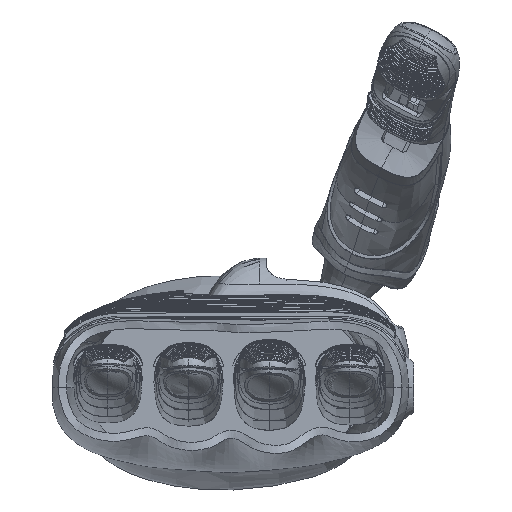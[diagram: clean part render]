
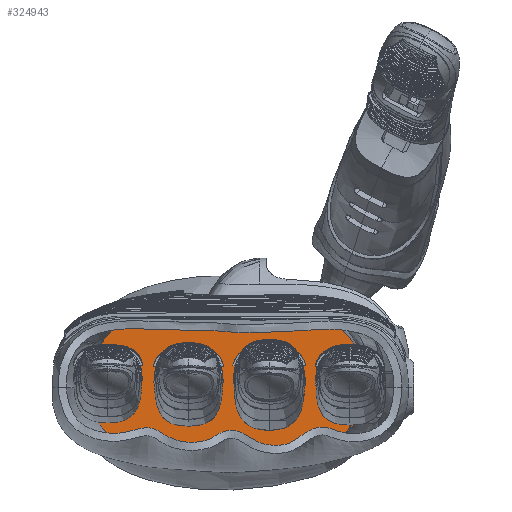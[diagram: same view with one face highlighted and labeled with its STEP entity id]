
A CAD part, top view. The second image highlights one B-rep face of the part: STEP entity #324943.
In plain terms, the highlighted planar face has unit normal (0, 0, 1).
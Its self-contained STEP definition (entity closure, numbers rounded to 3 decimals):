
#21233 = CARTESIAN_POINT ( 'NONE',  ( 119.522, -0.885, -95.865 ) ) ;
#22603 = CARTESIAN_POINT ( 'NONE',  ( 120.343, 21.527, -95.865 ) ) ;
#24540 = CARTESIAN_POINT ( 'NONE',  ( 51.74, 14.008, -95.865 ) ) ;
#25094 = CARTESIAN_POINT ( 'NONE',  ( 64.38, -7.722, -95.865 ) ) ;
#26451 = CARTESIAN_POINT ( 'NONE',  ( 57.616, 26.051, -95.865 ) ) ;
#28389 = CARTESIAN_POINT ( 'NONE',  ( 121.937, 16.673, -95.865 ) ) ;
#30642 = CARTESIAN_POINT ( 'NONE',  ( 122.381, 10., -95.865 ) ) ;
#34849 = ORIENTED_EDGE ( 'NONE', *, *, #41122, .F. ) ;
#41122 = EDGE_CURVE ( 'NONE', #321641, #219308, #355965, .T. ) ;
#48115 = AXIS2_PLACEMENT_3D ( 'NONE', #123396, #266360, #94036 ) ;
#54438 = CARTESIAN_POINT ( 'NONE',  ( 111.307, -7.329, -95.865 ) ) ;
#56371 = CARTESIAN_POINT ( 'NONE',  ( 72.557, -9.716, -95.865 ) ) ;
#57751 = CARTESIAN_POINT ( 'NONE',  ( 115.767, 26.661, -95.865 ) ) ;
#78039 = CARTESIAN_POINT ( 'NONE',  ( 51.651, 7.006, -95.865 ) ) ;
#81908 = CARTESIAN_POINT ( 'NONE',  ( 108.026, -8.442, -95.865 ) ) ;
#83842 = CARTESIAN_POINT ( 'NONE',  ( 120.724, 1.271, -95.865 ) ) ;
#86002 = EDGE_LOOP ( 'NONE', ( #215374, #34849 ) ) ;
#87149 = CARTESIAN_POINT ( 'NONE',  ( 62.801, 29.268, -95.865 ) ) ;
#89064 = CARTESIAN_POINT ( 'NONE',  ( 59.922, 27.741, -95.865 ) ) ;
#94036 = DIRECTION ( 'NONE',  ( -1., 0., 0. ) ) ;
#100520 = B_SPLINE_CURVE_WITH_KNOTS ( 'NONE', 3,
 ( #296636, #292788, #24540, #351622, #355464, #110836, #177295, #26451, #89064, #87149, #384940, #118483, #288928, #234003, #324066, #349695, #294707, #114670, #381098, #237840, #265315, #57751, #142070, #140123, #22603, #326017, #28389, #267225, #147834, #261486 ),
 .UNSPECIFIED., .F., .F.,
 ( 4, 1, 1, 1, 1, 1, 1, 1, 1, 1, 1, 1, 1, 1, 1, 1, 1, 1, 1, 1, 1, 1, 1, 1, 1, 1, 1, 4 ),
 ( 0., 0.037, 0.074, 0.111, 0.148, 0.185, 0.222, 0.259, 0.296, 0.333, 0.37, 0.407, 0.444, 0.481, 0.519, 0.556, 0.593, 0.63, 0.667, 0.704, 0.741, 0.778, 0.815, 0.852, 0.889, 0.926, 0.963, 1. ),
 .UNSPECIFIED. ) ;
#107522 = CARTESIAN_POINT ( 'NONE',  ( 104.234, -9.344, -95.865 ) ) ;
#110836 = CARTESIAN_POINT ( 'NONE',  ( 54.505, 22.431, -95.865 ) ) ;
#111403 = CARTESIAN_POINT ( 'NONE',  ( 54.737, -1.471, -95.865 ) ) ;
#113313 = CARTESIAN_POINT ( 'NONE',  ( 122.232, 6.538, -95.865 ) ) ;
#114670 = CARTESIAN_POINT ( 'NONE',  ( 102.733, 31.419, -95.865 ) ) ;
#118483 = CARTESIAN_POINT ( 'NONE',  ( 70.381, 31.61, -95.865 ) ) ;
#123396 = CARTESIAN_POINT ( 'NONE',  ( 86.981, 11.001, -95.865 ) ) ;
#136862 = CARTESIAN_POINT ( 'NONE',  ( 68.166, -8.848, -95.865 ) ) ;
#138774 = CARTESIAN_POINT ( 'NONE',  ( 83.293, -10.674, -95.865 ) ) ;
#140123 = CARTESIAN_POINT ( 'NONE',  ( 119.159, 23.408, -95.865 ) ) ;
#140686 = CARTESIAN_POINT ( 'NONE',  ( 99.911, -10.053, -95.865 ) ) ;
#142070 = CARTESIAN_POINT ( 'NONE',  ( 117.676, 25.088, -95.865 ) ) ;
#147834 = CARTESIAN_POINT ( 'NONE',  ( 122.381, 11.171, -95.865 ) ) ;
#148875 = PLANE ( 'NONE',  #48115 ) ;
#158924 = EDGE_CURVE ( 'NONE', #219308, #321641, #100520, .T. ) ;
#174002 = CARTESIAN_POINT ( 'NONE',  ( 95.011, -10.525, -95.865 ) ) ;
#177295 = CARTESIAN_POINT ( 'NONE',  ( 55.88, 24.317, -95.865 ) ) ;
#197575 = CARTESIAN_POINT ( 'NONE',  ( 51.581, 10., -95.865 ) ) ;
#205275 = CARTESIAN_POINT ( 'NONE',  ( 116.247, -4.474, -95.865 ) ) ;
#215374 = ORIENTED_EDGE ( 'NONE', *, *, #158924, .F. ) ;
#219308 = VERTEX_POINT ( 'NONE', #231930 ) ;
#226927 = CARTESIAN_POINT ( 'NONE',  ( 58.502, -4.831, -95.865 ) ) ;
#228845 = CARTESIAN_POINT ( 'NONE',  ( 118.026, -2.804, -95.865 ) ) ;
#230753 = CARTESIAN_POINT ( 'NONE',  ( 51.581, 9.021, -95.865 ) ) ;
#231930 = CARTESIAN_POINT ( 'NONE',  ( 51.581, 10., -95.865 ) ) ;
#232663 = CARTESIAN_POINT ( 'NONE',  ( 122.381, 8.882, -95.865 ) ) ;
#234003 = CARTESIAN_POINT ( 'NONE',  ( 80.535, 32.613, -95.865 ) ) ;
#237840 = CARTESIAN_POINT ( 'NONE',  ( 110.312, 29.403, -95.865 ) ) ;
#256270 = CARTESIAN_POINT ( 'NONE',  ( 114.054, -5.984, -95.865 ) ) ;
#260106 = CARTESIAN_POINT ( 'NONE',  ( 61.163, -6.364, -95.865 ) ) ;
#261486 = CARTESIAN_POINT ( 'NONE',  ( 122.381, 10., -95.865 ) ) ;
#263956 = CARTESIAN_POINT ( 'NONE',  ( 121.629, 3.718, -95.865 ) ) ;
#265315 = CARTESIAN_POINT ( 'NONE',  ( 113.309, 28.12, -95.865 ) ) ;
#266360 = DIRECTION ( 'NONE',  ( 0., 0., 1. ) ) ;
#267225 = CARTESIAN_POINT ( 'NONE',  ( 122.296, 13.61, -95.865 ) ) ;
#270233 = FACE_OUTER_BOUND ( 'NONE', #86002, .T. ) ;
#288928 = CARTESIAN_POINT ( 'NONE',  ( 75.139, 32.303, -95.865 ) ) ;
#292788 = CARTESIAN_POINT ( 'NONE',  ( 51.581, 11.295, -95.865 ) ) ;
#293347 = CARTESIAN_POINT ( 'NONE',  ( 77.511, -10.313, -95.865 ) ) ;
#294707 = CARTESIAN_POINT ( 'NONE',  ( 98.084, 32.12, -95.865 ) ) ;
#296636 = CARTESIAN_POINT ( 'NONE',  ( 51.581, 10., -95.865 ) ) ;
#318811 = CARTESIAN_POINT ( 'NONE',  ( 89.474, -10.736, -95.865 ) ) ;
#321641 = VERTEX_POINT ( 'NONE', #30642 ) ;
#324066 = CARTESIAN_POINT ( 'NONE',  ( 86.713, 32.754, -95.865 ) ) ;
#324943 = ADVANCED_FACE ( 'NONE', ( #270233 ), #148875, .T. ) ;
#326017 = CARTESIAN_POINT ( 'NONE',  ( 121.277, 19.345, -95.865 ) ) ;
#346417 = CARTESIAN_POINT ( 'NONE',  ( 52.698, 2.064, -95.865 ) ) ;
#348325 = CARTESIAN_POINT ( 'NONE',  ( 53.576, 0.215, -95.865 ) ) ;
#349695 = CARTESIAN_POINT ( 'NONE',  ( 92.835, 32.586, -95.865 ) ) ;
#351622 = CARTESIAN_POINT ( 'NONE',  ( 52.37, 17.299, -95.865 ) ) ;
#352198 = CARTESIAN_POINT ( 'NONE',  ( 122.381, 10., -95.865 ) ) ;
#355464 = CARTESIAN_POINT ( 'NONE',  ( 53.323, 20.139, -95.865 ) ) ;
#355965 = B_SPLINE_CURVE_WITH_KNOTS ( 'NONE', 3,
 ( #352198, #232663, #113313, #263956, #83842, #21233, #228845, #205275, #256270, #54438, #81908, #107522, #140686, #174002, #318811, #138774, #293347, #56371, #136862, #25094, #260106, #226927, #379717, #111403, #348325, #346417, #383574, #78039, #230753, #197575 ),
 .UNSPECIFIED., .F., .F.,
 ( 4, 1, 1, 1, 1, 1, 1, 1, 1, 1, 1, 1, 1, 1, 1, 1, 1, 1, 1, 1, 1, 1, 1, 1, 1, 1, 1, 4 ),
 ( 0., 0.037, 0.074, 0.111, 0.148, 0.185, 0.222, 0.259, 0.296, 0.333, 0.37, 0.407, 0.444, 0.481, 0.519, 0.556, 0.593, 0.63, 0.667, 0.704, 0.741, 0.778, 0.815, 0.852, 0.889, 0.926, 0.963, 1. ),
 .UNSPECIFIED. ) ;
#379717 = CARTESIAN_POINT ( 'NONE',  ( 56.369, -3.183, -95.865 ) ) ;
#381098 = CARTESIAN_POINT ( 'NONE',  ( 106.793, 30.506, -95.865 ) ) ;
#383574 = CARTESIAN_POINT ( 'NONE',  ( 52.032, 4.348, -95.865 ) ) ;
#384940 = CARTESIAN_POINT ( 'NONE',  ( 66.283, 30.577, -95.865 ) ) ;
